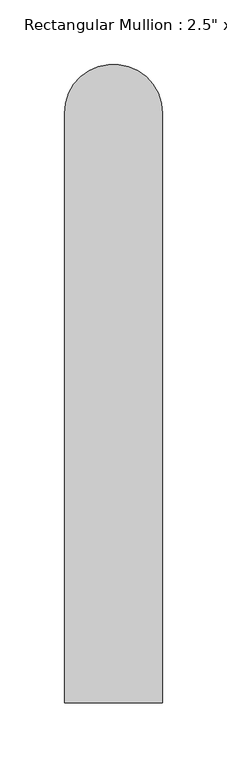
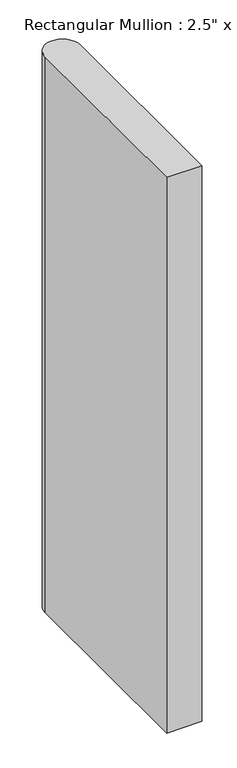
"""IFC4 building model written with IfcOpenShell, lengths in millimetres: member geometry."""

import ifcopenshell
import ifcopenshell.guid

model = None  # the IFC model being written
_history = None  # IfcOwnerHistory: only IFC2X3 demands one
_inside = {}  # id of a spatial element -> (the spatial element, [elements in it])
_under = {}  # id of a project, library or spatial element -> (it, [spatial elements below it])
_declared = {}  # id of a project -> (the project, [libraries it declares])
_typed = {}  # id of a type object -> (the type object, [elements of that type])
_made_of = {}  # id of a material, layer set ... -> (it, [elements and type objects made of it])


def new_model(schema):
    """Start an empty IFC model of exactly this schema.

    Asked for "IFC4X3", IfcOpenShell would pick the latest addendum, in which some entities
    have other attributes; the version numbers below select the first issue.
    IFC2X3 requires an IfcOwnerHistory on every rooted entity: one is made here for all.
    """
    global model, _history
    if schema == "IFC4X3":
        model = ifcopenshell.file(schema_version=(4, 3, 0, 0))
    else:
        model = ifcopenshell.file(schema=schema)
    _inside.clear()
    _under.clear()
    _declared.clear()
    _typed.clear()
    _made_of.clear()
    _history = None
    if model.schema == "IFC2X3":
        org = make("IfcOrganization", Name="unknown")
        user = make(
            "IfcPersonAndOrganization",
            ThePerson=make("IfcPerson", FamilyName="unknown"),
            TheOrganization=org,
        )
        app = make(
            "IfcApplication",
            ApplicationDeveloper=org,
            Version="unknown",
            ApplicationFullName="unknown",
            ApplicationIdentifier="unknown",
        )
        _history = make(
            "IfcOwnerHistory",
            OwningUser=user,
            OwningApplication=app,
            ChangeAction="ADDED",
            CreationDate=0,
        )
    return model


def make(cls, **values):
    """One entity of the class cls with the attributes given. An attribute that is None is left unset."""
    return model.create_entity(
        cls, **{name: value for name, value in values.items() if value is not None}
    )


def rooted(cls, **values):
    """An entity with a GlobalId (a new one), such as an element, a storey or a relation."""
    return make(cls, GlobalId=ifcopenshell.guid.new(), OwnerHistory=_history, **values)


def si_unit(unit_type, name, prefix=None):
    """IfcSIUnit, for example si_unit("LENGTHUNIT", "METRE", prefix="MILLI")."""
    return make("IfcSIUnit", UnitType=unit_type, Prefix=prefix, Name=name)


def assignment(units):
    """IfcUnitAssignment: the units of a project."""
    return None if units is None else make("IfcUnitAssignment", Units=units)


def point(xyz):
    """IfcCartesianPoint."""
    return None if xyz is None else make("IfcCartesianPoint", Coordinates=xyz)


def direction(xyz):
    """IfcDirection."""
    return None if xyz is None else make("IfcDirection", DirectionRatios=xyz)


def frame(location, z_axis=None, x_axis=None):
    """IfcAxis2Placement3D, a coordinate frame: its origin and axes. An axis left out is left unset."""
    return make(
        "IfcAxis2Placement3D",
        Location=point(location),
        Axis=direction(z_axis),
        RefDirection=direction(x_axis),
    )


def frame_2d(location, x_axis=None):
    """IfcAxis2Placement2D, a coordinate frame in the plane: its origin and x axis."""
    return make(
        "IfcAxis2Placement2D", Location=point(location), RefDirection=direction(x_axis)
    )


def origin():
    """The frame at (0, 0, 0) with its axes left unset."""
    return frame((0.0, 0.0, 0.0))


def place(relative_to, where):
    """IfcLocalPlacement: puts the frame where relative to a parent placement (None: the world)."""
    return make(
        "IfcLocalPlacement", PlacementRelTo=relative_to, RelativePlacement=where
    )


def context(
    kind, dimensions, precision=None, world=None, true_north=None, identifier=None
):
    """IfcGeometricRepresentationContext, for example the 3D "Model" context."""
    return make(
        "IfcGeometricRepresentationContext",
        ContextIdentifier=identifier,
        ContextType=kind,
        CoordinateSpaceDimension=dimensions,
        Precision=precision,
        WorldCoordinateSystem=world,
        TrueNorth=true_north,
    )


def project(units=None, contexts=None):
    """IfcProject with its units and contexts."""
    return rooted(
        "IfcProject",
        Name="project",
        RepresentationContexts=contexts,
        UnitsInContext=assignment(units),
    )


def spatial(cls, under=None, at=None, **own):
    """A site, building, storey or space (cls), placed at a placement, below another one or the project."""
    s = rooted(cls, ObjectPlacement=at, **own)
    if under is not None:
        _under.setdefault(under.id(), (under, []))[1].append(s)
    return s


def polyline(points):
    """IfcPolyline through the points."""
    return make("IfcPolyline", Points=[point(p) for p in points])


def circle_curve(where, radius):
    """IfcCircle in the frame where."""
    return make("IfcCircle", Position=where, Radius=radius)


def trimmed(basis, trim1, trim2, sense, master):
    """IfcTrimmedCurve: the piece of a basis curve between two trims."""
    return make(
        "IfcTrimmedCurve",
        BasisCurve=basis,
        Trim1=trim1,
        Trim2=trim2,
        SenseAgreement=sense,
        MasterRepresentation=master,
    )


def segment(curve, same_sense, transition):
    """IfcCompositeCurveSegment."""
    return make(
        "IfcCompositeCurveSegment",
        Transition=transition,
        SameSense=same_sense,
        ParentCurve=curve,
    )


def composite_curve(segments, self_intersect=None):
    """IfcCompositeCurve: segments joined end to end."""
    return make("IfcCompositeCurve", Segments=segments, SelfIntersect=self_intersect)


def outline(outer, holes=None, kind="AREA"):
    """IfcArbitraryClosedProfileDef: a profile drawn as a closed curve; with holes, ...WithVoids."""
    if holes is None:
        return make("IfcArbitraryClosedProfileDef", ProfileType=kind, OuterCurve=outer)
    return make(
        "IfcArbitraryProfileDefWithVoids",
        ProfileType=kind,
        OuterCurve=outer,
        InnerCurves=holes,
    )


def extrude(swept, where, along, depth):
    """IfcExtrudedAreaSolid: the profile swept, set in the frame where, extruded along a direction by depth."""
    return make(
        "IfcExtrudedAreaSolid",
        SweptArea=swept,
        Position=where,
        ExtrudedDirection=direction(along),
        Depth=depth,
    )


def shape(context_of_items, identifier, shape_type, items):
    """IfcShapeRepresentation: the items that make up one representation, for example the "Body"."""
    return make(
        "IfcShapeRepresentation",
        ContextOfItems=context_of_items,
        RepresentationIdentifier=identifier,
        RepresentationType=shape_type,
        Items=items,
    )


def source(mapping_origin, context_of_items, identifier, shape_type, items):
    """IfcRepresentationMap: a shape defined once, which mapped items show again and again."""
    return make(
        "IfcRepresentationMap",
        MappingOrigin=mapping_origin,
        MappedRepresentation=shape(context_of_items, identifier, shape_type, items),
    )


def transform(
    local_origin,
    x_axis=None,
    y_axis=None,
    z_axis=None,
    scale=None,
    scale2=None,
    scale3=None,
    uniform=True,
):
    """IfcCartesianTransformationOperator3D, or its non-uniform kind. x_axis, y_axis, z_axis: its Axis1, 2, 3."""
    if uniform:
        return make(
            "IfcCartesianTransformationOperator3D",
            Axis1=direction(x_axis),
            Axis2=direction(y_axis),
            LocalOrigin=point(local_origin),
            Scale=scale,
            Axis3=direction(z_axis),
        )
    return make(
        "IfcCartesianTransformationOperator3DnonUniform",
        Axis1=direction(x_axis),
        Axis2=direction(y_axis),
        LocalOrigin=point(local_origin),
        Scale=scale,
        Axis3=direction(z_axis),
        Scale2=scale2,
        Scale3=scale3,
    )


def mapped(mapping_source, mapping_target):
    """IfcMappedItem: shows the shape of a source again, moved by a transform."""
    return make(
        "IfcMappedItem", MappingSource=mapping_source, MappingTarget=mapping_target
    )


def made_of(thing, what):
    """Note that an element or type object is made of a material, layer set ...; save() writes the relation."""
    if what is not None:
        _made_of.setdefault(what.id(), (what, []))[1].append(thing)
    return thing


def element(
    cls,
    number,
    at=None,
    inside=None,
    cuts=None,
    type_object=None,
    material=None,
    context=None,
    identifier="Body",
    shape_type=None,
    held_by="IfcProductDefinitionShape",
    body=None,
    shapes=None,
    **own,
):
    """One element of the class cls, such as IfcWall. Its Tag is "e" and its number.

    at: its placement. inside: the storey or other place that contains it. cuts: it is an
    opening in that element (IfcRelVoidsElement). A single representation is given by context,
    identifier, shape_type and body (its items); several are given by shapes. held_by: the class
    of the entity that holds the representations. save() writes the other relations.
    """
    e = rooted(cls, Tag="e%d" % number, ObjectPlacement=at, **own)
    if body is not None:
        shapes = [shape(context, identifier, shape_type, body)]
    if shapes is not None:
        e.Representation = make(held_by, Representations=shapes)
    if inside is not None:
        _inside.setdefault(inside.id(), (inside, []))[1].append(e)
    if cuts is not None:
        rooted(
            "IfcRelVoidsElement", RelatingBuildingElement=cuts, RelatedOpeningElement=e
        )
    if type_object is not None:
        _typed.setdefault(type_object.id(), (type_object, []))[1].append(e)
    return made_of(e, material)


def aggregate(whole, parts):
    """IfcRelAggregates: a whole, such as a stair, and the parts it consists of."""
    return rooted("IfcRelAggregates", RelatingObject=whole, RelatedObjects=parts)


def save(model, path):
    """Write the relations noted so far, then the file.

    IfcRelAggregates (storeys below a building ...), IfcRelContainedInSpatialStructure (elements
    in a storey), IfcRelDefinesByType, IfcRelAssociatesMaterial and IfcRelDeclares: one each for
    every whole, place, type object, material and project.
    """
    for whole, parts in _under.values():
        aggregate(whole, parts)
    for where, things in _inside.values():
        rooted(
            "IfcRelContainedInSpatialStructure",
            RelatedElements=things,
            RelatingStructure=where,
        )
    for kind, things in _typed.values():
        rooted("IfcRelDefinesByType", RelatedObjects=things, RelatingType=kind)
    for what, things in _made_of.values():
        rooted("IfcRelAssociatesMaterial", RelatedObjects=things, RelatingMaterial=what)
    for by, libraries in _declared.values():
        rooted("IfcRelDeclares", RelatingContext=by, RelatedDefinitions=libraries)
    model.write(path)


def member_522a8f91(model_context):
    return source(origin(), model_context, "Body", "SweptSolid", [
        extrude(outline(composite_curve([segment(polyline([(76.2, 0.0), (0.0, 0.0), (0.0, 457.2)]), True, "CONTINUOUS"), segment(trimmed(circle_curve(frame_2d((38.1, 457.2)), 38.1), [point((0.0, 457.2))], [point((76.2, 457.2))], False, "CARTESIAN"), True, "CONTINUOUS"), segment(polyline([(76.2, 457.2), (76.2, 0.0)]), True, "CONTINUOUS")], self_intersect=False)), frame((0.0, 0.0, -1276.35), z_axis=(0.0, 0.0, 1.0), x_axis=(1.0, 0.0, 0.0)), (0.0, 0.0, 1.0), 1276.35),
    ])


if __name__ == "__main__":
    model = new_model("IFC4")
    model_context = context("Model", 3, world=origin())
    ifc_project = project(units=[si_unit("LENGTHUNIT", "METRE", prefix="MILLI")], contexts=[model_context])
    site = spatial("IfcSite", under=ifc_project)
    building = spatial("IfcBuilding", under=site)
    placement = place(None, origin())
    member_shape = member_522a8f91(model_context)
    element("IfcMember", 1, ObjectType="Rectangular Mullion : 2.5\" x 5\" rectangular TN mod 2", at=placement, inside=building, context=model_context, shape_type="MappedRepresentation", body=[
        mapped(member_shape, transform((0.0, 0.0, 0.0), x_axis=(1.0, 0.0, 0.0), y_axis=(0.0, 1.0, 0.0), z_axis=(0.0, 0.0, 1.0))),
    ])
    save(model, "model.ifc")
